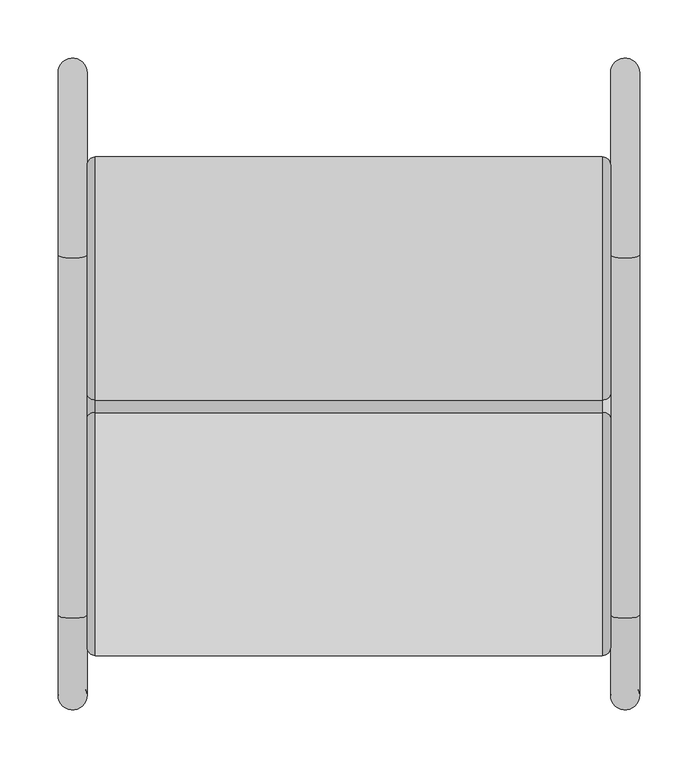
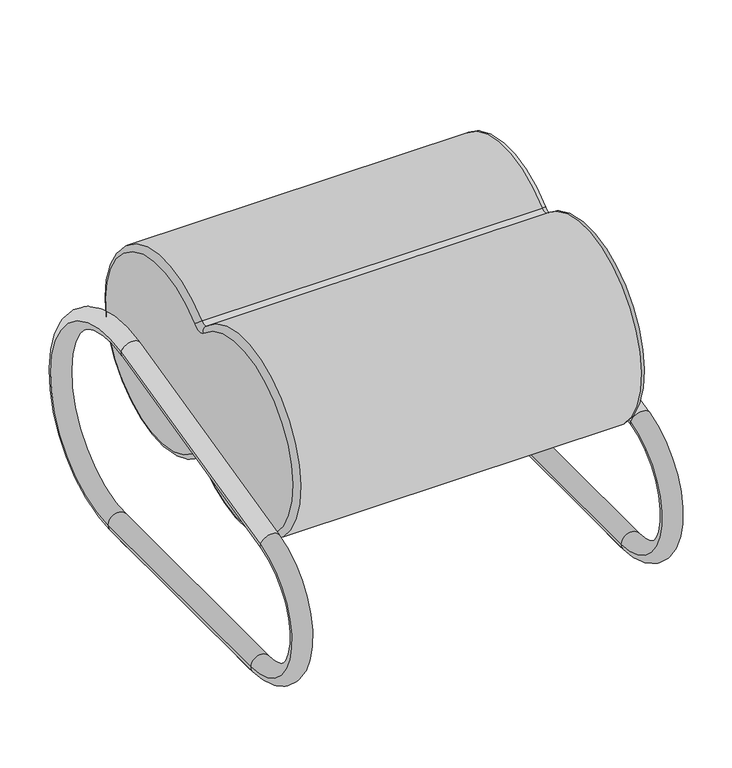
"""IFC4 building model written with IfcOpenShell, lengths in millimetres: furniture geometry, Norr11 - Fave Ottoman : Norr11 - Fave Ottoman."""

from ifc_helpers import new_model, si_unit, point, frame, frame_2d, origin, origin_with_axes, place, context, project, spatial, polyline, circle_curve, ellipse_curve, trimmed, segment, composite_curve, outline, extrude, source, transform, mapped, element, save
from ifc_brep_helpers import plane_surface, cylinder_surface, revolved_surface, advanced_brep


def furniture_6746b736(model_context):
    return source(origin(), model_context, "Body", "SolidModel", [
        advanced_brep(
        [(225.0, -11.9793146, 189.8803954), (225.0, 15.0243951, 189.8740854), (225.0, 11.6221779, 367.6236259), (225.0, -8.5364308, 367.6235397), (-225.0, 15.0243951, 189.8740854), (-225.0, -11.9793146, 189.8803954), (-225.0, -8.5364308, 367.6235397), (-225.0, 11.6221779, 367.6236259), (-218.0, 10.522524, 184.5137536), (-218.0, 6.9184804, 372.8077583), (218.0, 6.9184804, 372.8077583), (218.0, 10.522524, 184.5137536), (-218.0, -3.8327776, 372.8077124), (218.0, -3.8327776, 372.8077124), (-218.0, -7.4799491, 184.5179603), (218.0, -7.4799491, 184.5179603)],
        [
            (0, 1, circle_curve(frame((225.0, 1.5187818, 173.7930901), z_axis=(-1.0, 0.0, 0.0), x_axis=(0.0, 0.6431244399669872, 0.7657616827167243)), 21.0)),
            (1, 2, circle_curve(frame((225.0, 90.913079, 280.2339639), z_axis=(1.0, 0.0, 0.0), x_axis=(0.0, -0.6719567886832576, 0.7405903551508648)), 118.0)),
            (2, 3, circle_curve(frame((225.0, 1.5428261, 378.7324812), z_axis=(-1.0, 0.0, 0.0), x_axis=(0.0, -0.6719504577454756, -0.7405960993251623)), 15.0)),
            (3, 0, circle_curve(frame((225.0, -87.8076168, 280.2541057), z_axis=(1.0, 0.0, 0.0), x_axis=(0.0, 0.6427664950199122, -0.7660621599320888)), 117.9717718)),
            (4, 5, circle_curve(frame((-225.0, 1.5187818, 173.7930901), z_axis=(1.0, 0.0, 0.0), x_axis=(0.0, 0.6431244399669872, 0.7657616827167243)), 21.0)),
            (5, 6, circle_curve(frame((-225.0, -87.8076168, 280.2541057), z_axis=(-1.0, 0.0, 0.0), x_axis=(0.0, 0.6427664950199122, -0.7660621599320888)), 117.9717718)),
            (6, 7, circle_curve(frame((-225.0, 1.5428261, 378.7324812), z_axis=(1.0, 0.0, 0.0), x_axis=(0.0, -0.6719504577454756, -0.7405960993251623)), 15.0)),
            (7, 4, circle_curve(frame((-225.0, 90.913079, 280.2339639), z_axis=(-1.0, 0.0, 0.0), x_axis=(0.0, -0.6719567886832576, 0.7405903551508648)), 118.0)),
            (8, 9, circle_curve(frame((-218.0, 90.913079, 280.2339639), z_axis=(1.0, 0.0, 0.0), x_axis=(0.0, -1.0, 0.0)), 125.0)),
            (9, 10),
            (10, 11, circle_curve(frame((218.0, 90.913079, 280.2339639), z_axis=(-1.0, 0.0, 0.0), x_axis=(0.0, -1.0, 0.0)), 125.0)),
            (11, 8),
            (9, 12, circle_curve(frame((-218.0, 1.5428261, 378.7324812), z_axis=(-1.0, 0.0, 0.0), x_axis=(0.0, -1.0, 0.0)), 8.0)),
            (12, 13),
            (13, 10, circle_curve(frame((218.0, 1.5428261, 378.7324812), z_axis=(1.0, 0.0, 0.0), x_axis=(0.0, -1.0, 0.0)), 8.0)),
            (12, 14, circle_curve(frame((-218.0, -87.8076168, 280.2541057), z_axis=(1.0, 0.0, 0.0), x_axis=(0.0, -1.0, 0.0)), 124.9717718)),
            (14, 15),
            (15, 13, circle_curve(frame((218.0, -87.8076168, 280.2541057), z_axis=(-1.0, 0.0, 0.0), x_axis=(0.0, -1.0, 0.0)), 124.9717718)),
            (14, 8, circle_curve(frame((-218.0, 1.5187818, 173.7930901), z_axis=(-1.0, 0.0, 0.0), x_axis=(0.0, -1.0, 0.0)), 14.0)),
            (11, 15, circle_curve(frame((218.0, 1.5187818, 173.7930901), z_axis=(1.0, 0.0, 0.0), x_axis=(0.0, -1.0, 0.0)), 14.0)),
            (14, 5, circle_curve(frame((-218.0, -11.9793146, 189.8803954), z_axis=(0.0, 0.7660621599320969, 0.6427664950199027), x_axis=(1.0, 0.0, 0.0)), 7.0)),
            (4, 8, circle_curve(frame((-218.0, 15.0243951, 189.8740854), z_axis=(0.0, -0.7657616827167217, 0.6431244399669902), x_axis=(1.0, 0.0, 0.0)), 7.0)),
            (12, 6, circle_curve(frame((-218.0, -8.5364308, 367.6235397), z_axis=(0.0, -0.7405960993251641, 0.6719504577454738), x_axis=(1.0, 0.0, 0.0)), 7.0)),
            (9, 7, circle_curve(frame((-218.0, 11.6221779, 367.6236259), z_axis=(0.0, -0.7405903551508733, -0.6719567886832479), x_axis=(1.0, 0.0, 0.0)), 7.0)),
            (0, 15, circle_curve(frame((218.0, -11.9793146, 189.8803954), z_axis=(0.0, 0.7660621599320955, 0.6427664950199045), x_axis=(-1.0, 0.0, 0.0)), 7.0)),
            (11, 1, circle_curve(frame((218.0, 15.0243951, 189.8740854), z_axis=(0.0, -0.7657616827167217, 0.6431244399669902), x_axis=(-1.0, 0.0, 0.0)), 7.0)),
            (3, 13, circle_curve(frame((218.0, -8.5364308, 367.6235397), z_axis=(0.0, -0.7405960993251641, 0.6719504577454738), x_axis=(-1.0, 0.0, 0.0)), 7.0)),
            (2, 10, circle_curve(frame((218.0, 11.6221779, 367.6236259), z_axis=(0.0, -0.7405903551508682, -0.6719567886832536), x_axis=(-1.0, 0.0, 0.0)), 7.0)),
        ],
        [
            plane_surface(frame((225.0, -34.086921, 280.2339639), z_axis=(1.0, 0.0, 0.0), x_axis=(0.0, 0.0, -1.0))),
            plane_surface(frame((-225.0, -34.086921, 280.2339639), z_axis=(-1.0, 0.0, 0.0), x_axis=(0.0, 0.0, 1.0))),
            cylinder_surface(frame((-225.0, 90.913079, 280.2339639), z_axis=(1.0, 0.0, 0.0), x_axis=(0.0, -1.0, 0.0)), 125.0),
            revolved_surface(polyline([(-218.0, -6.4571739, 378.7324812), (218.0, -6.4571739, 378.7324812)]), (-225.0, 1.5428261, 378.7324812), (-1.0, 0.0, 0.0)),
            cylinder_surface(frame((-225.0, -87.8076168, 280.2541057), z_axis=(1.0, 0.0, 0.0), x_axis=(0.0, -1.0, 0.0)), 124.9717718),
            revolved_surface(polyline([(-218.0, -12.4812182, 173.7930901), (218.0, -12.4812182, 173.7930901)]), (-225.0, 1.5187818, 173.7930901), (-1.0, 0.0, 0.0)),
            revolved_surface(trimmed(ellipse_curve(frame((-218.0, 15.0243951, 189.8740854), z_axis=(0.0, 0.7657616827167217, -0.6431244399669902), x_axis=(1.0, 0.0, 0.0)), 7.0, 7.0), [point((-218.0, 10.522524, 184.5137536))], [point((-225.0, 15.0243951, 189.8740854))], True, "CARTESIAN"), (0.0, 1.5187818, 173.7930901), (1.0, 0.0, 0.0)),
            revolved_surface(trimmed(ellipse_curve(frame((-218.0, -11.9793146, 189.8803954), z_axis=(0.0, 0.7660621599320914, 0.6427664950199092), x_axis=(1.0, 0.0, 0.0)), 7.0, 7.0), [point((-218.0, -7.4799491, 184.5179603))], [point((-225.0, -11.9793146, 189.8803954))], True, "CARTESIAN"), (0.0, -87.8076168, 280.2541057), (-1.0, 0.0, 0.0)),
            revolved_surface(trimmed(ellipse_curve(frame((-218.0, -8.5364308, 367.6235397), z_axis=(0.0, -0.7405960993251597, 0.6719504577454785), x_axis=(1.0, 0.0, 0.0)), 7.0, 7.0), [point((-218.0, -3.8327776, 372.8077124))], [point((-225.0, -8.5364308, 367.6235397))], True, "CARTESIAN"), (0.0, 1.5428261, 378.7324812), (1.0, 0.0, 0.0)),
            revolved_surface(trimmed(ellipse_curve(frame((-218.0, 11.6221779, 367.6236259), z_axis=(0.0, -0.7405903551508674, -0.6719567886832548), x_axis=(1.0, 0.0, 0.0)), 7.0, 7.0), [point((-218.0, 6.9184804, 372.8077583))], [point((-225.0, 11.6221779, 367.6236259))], True, "CARTESIAN"), (0.0, 90.913079, 280.2339639), (-1.0, 0.0, 0.0)),
            revolved_surface(trimmed(ellipse_curve(frame((218.0, 15.0243951, 189.8740854), z_axis=(0.0, 0.7657616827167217, -0.6431244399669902), x_axis=(-1.0, 0.0, 0.0)), 7.0, 7.0), [point((225.0, 15.0243951, 189.8740854))], [point((218.0, 10.522524, 184.5137536))], True, "CARTESIAN"), (0.0, 1.5187818, 173.7930901), (1.0, 0.0, 0.0)),
            revolved_surface(trimmed(ellipse_curve(frame((218.0, -11.9793146, 189.8803954), z_axis=(0.0, 0.7660621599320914, 0.6427664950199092), x_axis=(-1.0, 0.0, 0.0)), 7.0, 7.0), [point((225.0, -11.9793146, 189.8803954))], [point((218.0, -7.4799491, 184.5179603))], True, "CARTESIAN"), (0.0, -87.8076168, 280.2541057), (-1.0, 0.0, 0.0)),
            revolved_surface(trimmed(ellipse_curve(frame((218.0, -8.5364308, 367.6235397), z_axis=(0.0, -0.7405960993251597, 0.6719504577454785), x_axis=(-1.0, 0.0, 0.0)), 7.0, 7.0), [point((225.0, -8.5364308, 367.6235397))], [point((218.0, -3.8327776, 372.8077124))], True, "CARTESIAN"), (0.0, 1.5428261, 378.7324812), (1.0, 0.0, 0.0)),
            revolved_surface(trimmed(ellipse_curve(frame((218.0, 11.6221779, 367.6236259), z_axis=(0.0, -0.7405903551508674, -0.6719567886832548), x_axis=(-1.0, 0.0, 0.0)), 7.0, 7.0), [point((225.0, 11.6221779, 367.6236259))], [point((218.0, 6.9184804, 372.8077583))], True, "CARTESIAN"), (0.0, 90.913079, 280.2339639), (-1.0, 0.0, 0.0)),
        ],
        [
            (0, [[1, 2, 3, 4]]),
            (1, [[5, 6, 7, 8]]),
            (2, [[9, 10, 11, 12]]),
            (3, [[13, 14, 15, -10]]),
            (4, [[16, 17, 18, -14]]),
            (5, [[19, -12, 20, -17]]),
            (6, [[21, -5, 22, -19]]),
            (7, [[-21, -16, 23, -6]]),
            (8, [[-23, -13, 24, -7]]),
            (9, [[-22, -8, -24, -9]]),
            (10, [[25, -20, 26, -1]]),
            (11, [[-25, -4, 27, -18]]),
            (12, [[-27, -3, 28, -15]]),
            (13, [[-26, -11, -28, -2]]),
        ],
    ),
        extrude(outline(composite_curve([segment(trimmed(circle_curve(frame_2d((237.55, 116.2728411)), 6.0), [point((243.55, 116.2728411))], [point((231.55, 116.2728411))], False, "CARTESIAN"), True, "CONTINUOUS"), segment(polyline([(231.55, 116.2728411), (231.55, 143.2819968)]), True, "CONTINUOUS"), segment(trimmed(circle_curve(frame_2d((237.55, 143.2819968)), 6.0), [point((231.55, 143.2819968))], [point((243.55, 143.2819968))], False, "CARTESIAN"), True, "CONTINUOUS"), segment(polyline([(243.55, 143.2819968), (243.55, 116.2728411)]), True, "CONTINUOUS")], self_intersect=False)), origin_with_axes(), (0.0, 0.0, 1.0), 3.9119324),
        extrude(outline(composite_curve([segment(trimmed(circle_curve(frame_2d((237.55, -143.3365339)), 6.0), [point((243.55, -143.3365339))], [point((231.55, -143.3365339))], False, "CARTESIAN"), True, "CONTINUOUS"), segment(polyline([(231.55, -143.3365339), (231.55, -116.3273782)]), True, "CONTINUOUS"), segment(trimmed(circle_curve(frame_2d((237.55, -116.3273782)), 6.0), [point((231.55, -116.3273782))], [point((243.55, -116.3273782))], False, "CARTESIAN"), True, "CONTINUOUS"), segment(polyline([(243.55, -116.3273782), (243.55, -143.3365339)]), True, "CONTINUOUS")], self_intersect=False)), origin_with_axes(), (0.0, 0.0, 1.0), 3.9119324),
        extrude(outline(composite_curve([segment(polyline([(-243.55, 116.2728411), (-243.55, 143.2819968)]), True, "CONTINUOUS"), segment(trimmed(circle_curve(frame_2d((-237.55, 143.2819968)), 6.0), [point((-243.55, 143.2819968))], [point((-231.55, 143.2819968))], False, "CARTESIAN"), True, "CONTINUOUS"), segment(polyline([(-231.55, 143.2819968), (-231.55, 116.2728411)]), True, "CONTINUOUS"), segment(trimmed(circle_curve(frame_2d((-237.55, 116.2728411)), 6.0), [point((-231.55, 116.2728411))], [point((-243.55, 116.2728411))], False, "CARTESIAN"), True, "CONTINUOUS")], self_intersect=False)), origin_with_axes(), (0.0, 0.0, 1.0), 3.9119324),
        extrude(outline(composite_curve([segment(polyline([(-243.55, -143.3365339), (-243.55, -116.3273782)]), True, "CONTINUOUS"), segment(trimmed(circle_curve(frame_2d((-237.55, -116.3273782)), 6.0), [point((-243.55, -116.3273782))], [point((-231.55, -116.3273782))], False, "CARTESIAN"), True, "CONTINUOUS"), segment(polyline([(-231.55, -116.3273782), (-231.55, -143.3365339)]), True, "CONTINUOUS"), segment(trimmed(circle_curve(frame_2d((-237.55, -143.3365339)), 6.0), [point((-231.55, -143.3365339))], [point((-243.55, -143.3365339))], False, "CARTESIAN"), True, "CONTINUOUS")], self_intersect=False)), origin_with_axes(), (0.0, 0.0, 1.0), 3.9119324),
        advanced_brep(
        [(249.9906155, -177.954684, 192.0488524), (249.9906155, -157.1321465, 13.9304561), (224.9906155, -157.1321465, 13.9304561), (224.9906155, -177.954684, 192.0488524), (224.9906155, 131.5677648, 265.4196328), (249.9906155, 131.5677648, 265.4196328), (249.9906155, 160.9675514, 13.9304561), (224.9906155, 160.9675514, 13.9304561)],
        [
            (0, 1, circle_curve(frame((249.9906155, -157.1321465, 104.2067606), z_axis=(1.0, 0.0, 0.0), x_axis=(0.0, 0.0, -1.0)), 90.2763045)),
            (1, 2, circle_curve(frame((237.4906155, -157.1321465, 13.9304561), z_axis=(0.0, -1.0, 0.0), x_axis=(-1.0, 0.0, 0.0)), 12.5)),
            (2, 3, circle_curve(frame((224.9906155, -157.1321465, 104.2067606), z_axis=(-1.0, 0.0, 0.0), x_axis=(0.0, 0.0, -1.0)), 90.2763045)),
            (3, 0, circle_curve(frame((237.4906155, -177.954684, 192.0488524), z_axis=(0.0, -0.9730359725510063, -0.2306534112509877), x_axis=(-1.0, 0.0, 0.0)), 12.5)),
            (2, 1, circle_curve(frame((237.4906155, -157.1321465, 13.9304561), z_axis=(0.0, -1.0, 0.0), x_axis=(-1.0, 0.0, 0.0)), 12.5)),
            (0, 3, circle_curve(frame((237.4906155, -177.954684, 192.0488524), z_axis=(0.0, -0.9730359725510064, -0.2306534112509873), x_axis=(-1.0, 0.0, 0.0)), 12.5)),
            (3, 4),
            (4, 5, circle_curve(frame((237.4906155, 131.5677648, 265.4196328), z_axis=(0.0, -0.973035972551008, -0.2306534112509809), x_axis=(-1.0, 0.0, 0.0)), 12.5)),
            (5, 0),
            (5, 4, circle_curve(frame((237.4906155, 131.5677648, 265.4196328), z_axis=(0.0, -0.973035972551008, -0.2306534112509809), x_axis=(-1.0, 0.0, 0.0)), 12.5)),
            (6, 5, circle_curve(frame((249.9906155, 160.9675514, 141.393503), z_axis=(1.0, 0.0, 0.0), x_axis=(0.0, -0.23065341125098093, 0.9730359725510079)), 127.4630469)),
            (4, 7, circle_curve(frame((224.9906155, 160.9675514, 141.393503), z_axis=(-1.0, 0.0, 0.0), x_axis=(0.0, -0.23065341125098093, 0.9730359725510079)), 127.4630469)),
            (7, 6, circle_curve(frame((237.4906155, 160.9675514, 13.9304561), z_axis=(0.0, 1.0, 0.0), x_axis=(-1.0, 0.0, 0.0)), 12.5)),
            (6, 7, circle_curve(frame((237.4906155, 160.9675514, 13.9304561), z_axis=(0.0, 1.0, 0.0), x_axis=(-1.0, 0.0, 0.0)), 12.5)),
            (7, 2),
            (1, 6),
        ],
        [
            revolved_surface(trimmed(ellipse_curve(frame((237.4906155, -157.1321465, 13.9304561), z_axis=(0.0, 1.0, 0.0), x_axis=(-1.0, 0.0, 0.0)), 12.5, 12.5), [point((224.9906155, -157.1321465, 13.9304561))], [point((249.9906155, -157.1321465, 13.9304561))], True, "CARTESIAN"), (0.0, -157.1321465, 104.2067606), (-1.0, 0.0, 0.0)),
            revolved_surface(trimmed(ellipse_curve(frame((237.4906155, -157.1321465, 13.9304561), z_axis=(0.0, 1.0, 0.0), x_axis=(-1.0, 0.0, 0.0)), 12.5, 12.5), [point((249.9906155, -157.1321465, 13.9304561))], [point((224.9906155, -157.1321465, 13.9304561))], True, "CARTESIAN"), (0.0, -157.1321465, 104.2067606), (-1.0, 0.0, 0.0)),
            cylinder_surface(frame((237.4906155, -177.954684, 192.0488524), z_axis=(0.0, -0.973035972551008, -0.2306534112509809), x_axis=(-1.0, 0.0, 0.0)), 12.5),
            revolved_surface(trimmed(ellipse_curve(frame((237.4906155, 131.5677648, 265.4196328), z_axis=(0.0, -0.9730359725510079, -0.230653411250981), x_axis=(-1.0, 0.0, 0.0)), 12.5, 12.5), [point((224.9906155, 131.5677648, 265.4196328))], [point((249.9906155, 131.5677648, 265.4196328))], True, "CARTESIAN"), (0.0, 160.9675514, 141.393503), (-1.0, 0.0, 0.0)),
            revolved_surface(trimmed(ellipse_curve(frame((237.4906155, 131.5677648, 265.4196328), z_axis=(0.0, -0.9730359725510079, -0.230653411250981), x_axis=(-1.0, 0.0, 0.0)), 12.5, 12.5), [point((249.9906155, 131.5677648, 265.4196328))], [point((224.9906155, 131.5677648, 265.4196328))], True, "CARTESIAN"), (0.0, 160.9675514, 141.393503), (-1.0, 0.0, 0.0)),
            cylinder_surface(frame((237.4906155, 160.9675514, 13.9304561), z_axis=(0.0, 1.0, 0.0), x_axis=(-1.0, 0.0, 0.0)), 12.5),
        ],
        [
            (0, [[1, 2, 3, 4]]),
            (1, [[-3, 5, -1, 6]]),
            (2, [[-4, 7, 8, 9]]),
            (2, [[-6, -9, 10, -7]]),
            (3, [[11, -8, 12, 13]]),
            (4, [[-12, -10, -11, 14]]),
            (5, [[-13, 15, -2, 16]]),
            (5, [[-14, -16, -5, -15]]),
        ],
    ),
        advanced_brep(
        [(-224.9906155, -177.954684, 192.0488524), (-224.9906155, -157.1321465, 13.9304561), (-249.9906155, -157.1321465, 13.9304561), (-249.9906155, -177.954684, 192.0488524), (-249.9906155, 131.5677648, 265.4196328), (-224.9906155, 131.5677648, 265.4196328), (-224.9906155, 160.9675514, 13.9304561), (-249.9906155, 160.9675514, 13.9304561)],
        [
            (0, 1, circle_curve(frame((-224.9906155, -157.1321465, 104.2067606), z_axis=(1.0, 0.0, 0.0), x_axis=(0.0, 0.0, -1.0)), 90.2763045)),
            (1, 2, circle_curve(frame((-237.4906155, -157.1321465, 13.9304561), z_axis=(0.0, -1.0, 0.0), x_axis=(1.0, 0.0, 0.0)), 12.5)),
            (2, 3, circle_curve(frame((-249.9906155, -157.1321465, 104.2067606), z_axis=(-1.0, 0.0, 0.0), x_axis=(0.0, 0.0, -1.0)), 90.2763045)),
            (3, 0, circle_curve(frame((-237.4906155, -177.954684, 192.0488524), z_axis=(0.0, -0.9730359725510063, -0.2306534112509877), x_axis=(1.0, 0.0, 0.0)), 12.5)),
            (2, 1, circle_curve(frame((-237.4906155, -157.1321465, 13.9304561), z_axis=(0.0, -1.0, 0.0), x_axis=(1.0, 0.0, 0.0)), 12.5)),
            (0, 3, circle_curve(frame((-237.4906155, -177.954684, 192.0488524), z_axis=(0.0, -0.9730359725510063, -0.2306534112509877), x_axis=(1.0, 0.0, 0.0)), 12.5)),
            (3, 4),
            (4, 5, circle_curve(frame((-237.4906155, 131.5677648, 265.4196328), z_axis=(0.0, -0.973035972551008, -0.2306534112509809), x_axis=(1.0, 0.0, 0.0)), 12.5)),
            (5, 0),
            (5, 4, circle_curve(frame((-237.4906155, 131.5677648, 265.4196328), z_axis=(0.0, -0.973035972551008, -0.2306534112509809), x_axis=(1.0, 0.0, 0.0)), 12.5)),
            (6, 5, circle_curve(frame((-224.9906155, 160.9675514, 141.393503), z_axis=(1.0, 0.0, 0.0), x_axis=(0.0, -0.23065341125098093, 0.9730359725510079)), 127.4630469)),
            (4, 7, circle_curve(frame((-249.9906155, 160.9675514, 141.393503), z_axis=(-1.0, 0.0, 0.0), x_axis=(0.0, -0.23065341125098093, 0.9730359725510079)), 127.4630469)),
            (7, 6, circle_curve(frame((-237.4906155, 160.9675514, 13.9304561), z_axis=(0.0, 1.0, 0.0), x_axis=(1.0, 0.0, 0.0)), 12.5)),
            (6, 7, circle_curve(frame((-237.4906155, 160.9675514, 13.9304561), z_axis=(0.0, 1.0, 0.0), x_axis=(1.0, 0.0, 0.0)), 12.5)),
            (7, 2),
            (1, 6),
        ],
        [
            revolved_surface(trimmed(ellipse_curve(frame((-237.4906155, -157.1321465, 13.9304561), z_axis=(0.0, 1.0, 0.0), x_axis=(1.0, 0.0, 0.0)), 12.5, 12.5), [point((-249.9906155, -157.1321465, 13.9304561))], [point((-224.9906155, -157.1321465, 13.9304561))], True, "CARTESIAN"), (0.0, -157.1321465, 104.2067606), (-1.0, 0.0, 0.0)),
            revolved_surface(trimmed(ellipse_curve(frame((-237.4906155, -157.1321465, 13.9304561), z_axis=(0.0, 1.0, 0.0), x_axis=(1.0, 0.0, 0.0)), 12.5, 12.5), [point((-224.9906155, -157.1321465, 13.9304561))], [point((-249.9906155, -157.1321465, 13.9304561))], True, "CARTESIAN"), (0.0, -157.1321465, 104.2067606), (-1.0, 0.0, 0.0)),
            cylinder_surface(frame((-237.4906155, -177.954684, 192.0488524), z_axis=(0.0, -0.973035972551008, -0.2306534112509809), x_axis=(1.0, 0.0, 0.0)), 12.5),
            revolved_surface(trimmed(ellipse_curve(frame((-237.4906155, 131.5677648, 265.4196328), z_axis=(0.0, -0.9730359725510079, -0.230653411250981), x_axis=(1.0, 0.0, 0.0)), 12.5, 12.5), [point((-249.9906155, 131.5677648, 265.4196328))], [point((-224.9906155, 131.5677648, 265.4196328))], True, "CARTESIAN"), (0.0, 160.9675514, 141.393503), (-1.0, 0.0, 0.0)),
            revolved_surface(trimmed(ellipse_curve(frame((-237.4906155, 131.5677648, 265.4196328), z_axis=(0.0, -0.9730359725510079, -0.230653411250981), x_axis=(1.0, 0.0, 0.0)), 12.5, 12.5), [point((-224.9906155, 131.5677648, 265.4196328))], [point((-249.9906155, 131.5677648, 265.4196328))], True, "CARTESIAN"), (0.0, 160.9675514, 141.393503), (-1.0, 0.0, 0.0)),
            cylinder_surface(frame((-237.4906155, 160.9675514, 13.9304561), z_axis=(0.0, 1.0, 0.0), x_axis=(1.0, 0.0, 0.0)), 12.5),
        ],
        [
            (0, [[1, 2, 3, 4]]),
            (1, [[-3, 5, -1, 6]]),
            (2, [[-4, 7, 8, 9]]),
            (2, [[-6, -9, 10, -7]]),
            (3, [[11, -8, 12, 13]]),
            (4, [[-12, -10, -11, 14]]),
            (5, [[-13, 15, -2, 16]]),
            (5, [[-14, -16, -5, -15]]),
        ],
    ),
    ])


if __name__ == "__main__":
    model = new_model("IFC4")
    model_context = context("Model", 3, world=origin())
    ifc_project = project(units=[si_unit("LENGTHUNIT", "METRE", prefix="MILLI")], contexts=[model_context])
    site = spatial("IfcSite", under=ifc_project)
    building = spatial("IfcBuilding", under=site)
    placement = place(None, origin())
    furniture_shape = furniture_6746b736(model_context)
    element("IfcFurniture", 1, ObjectType="Norr11 - Fave Ottoman : Norr11 - Fave Ottoman", at=placement, inside=building, context=model_context, shape_type="MappedRepresentation", body=[
        mapped(furniture_shape, transform((0.0, 0.0, 0.0), x_axis=(1.0, 0.0, 0.0), y_axis=(0.0, 1.0, 0.0), z_axis=(0.0, 0.0, 1.0))),
    ])
    save(model, "model.ifc")
